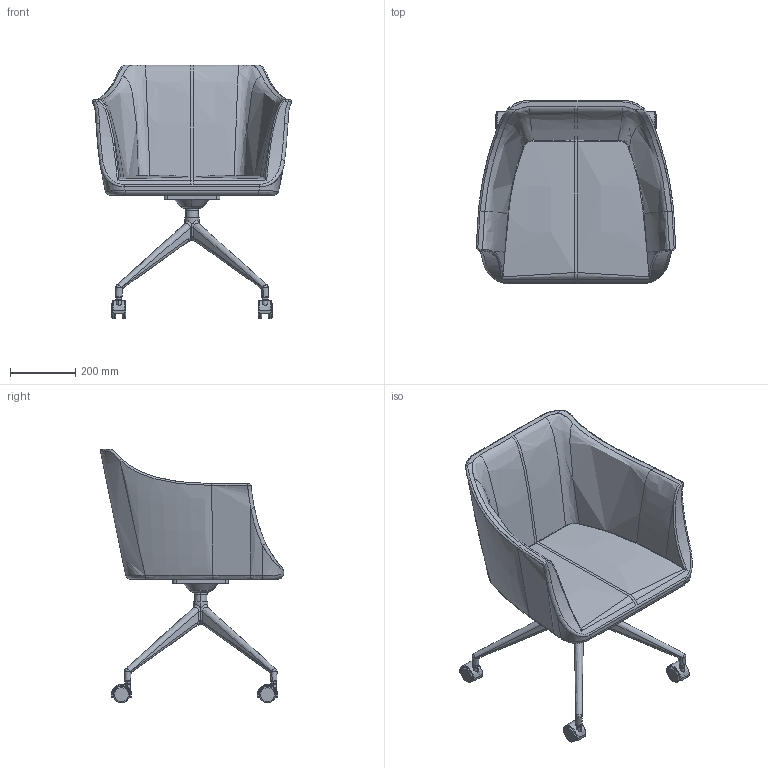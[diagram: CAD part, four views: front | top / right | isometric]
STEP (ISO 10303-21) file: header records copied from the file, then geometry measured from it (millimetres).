
FILE_DESCRIPTION(/* description */ (''),/* implementation_level */ '2;1');
FILE_NAME(/* name */ 'KINOSH~4',/* time_stamp */ '2019-07-19T10:39:40+09:00',/* author */ (''),/* organization */ (''),/* preprocessor_version */ 'ST-DEVELOPER v15',/* originating_system */ '',/* authorisation */ '');
FILE_SCHEMA (('AUTOMOTIVE_DESIGN'));
Length unit declared in the file: millimetre
Products named in the file (3): Document; ﾌﾞﾛｯｸ 28; ﾌﾞﾛｯｸ 27
Assembly tree (2 placements, depth 2):
  Document
    ﾌﾞﾛｯｸ 28
    ﾌﾞﾛｯｸ 27
Bounding box: 609.15 x 559.95 x 775 mm (x, y, z)
Volume: 801693.7 mm3; surface area: 1587782.4 mm2
Topology: 13 solids, 27 shells, 891 faces, 2273 edges, 1303 vertices
Faces by surface type: bspline 759, plane 132
Entity records: 84574 total; most frequent: CARTESIAN_POINT 72294, ORIENTED_EDGE 4127, EDGE_CURVE 2251, VERTEX_POINT 1305, B_SPLINE_CURVE_WITH_KNOTS 1240, EDGE_LOOP 925, ADVANCED_FACE 890, FACE_OUTER_BOUND 890
